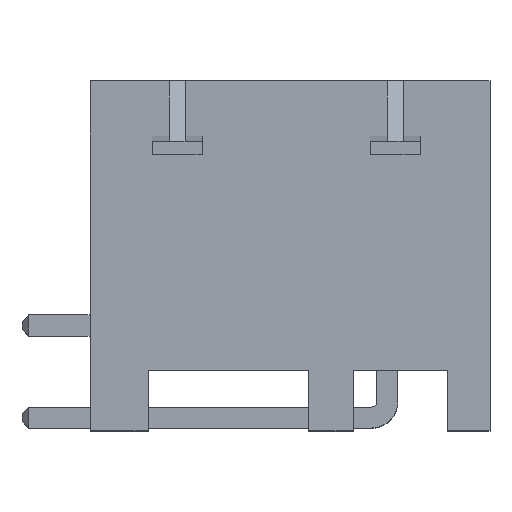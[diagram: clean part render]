
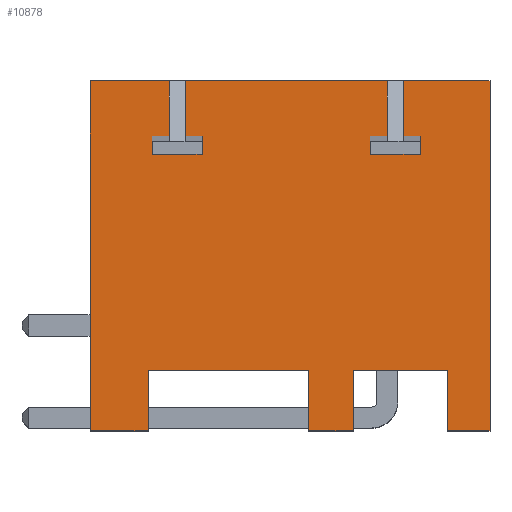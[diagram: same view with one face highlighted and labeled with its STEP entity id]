
A CAD part, top view. The second image highlights one B-rep face of the part: STEP entity #10878.
In plain terms, the highlighted planar face has unit normal (0, 0, 1).
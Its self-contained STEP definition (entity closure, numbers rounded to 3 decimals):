
#369=DIRECTION('',(-1.,0.,0.));
#370=VECTOR('',#369,3.3);
#371=CARTESIAN_POINT('',(15.2,13.3,-11.9));
#372=LINE('',#371,#370);
#377=DIRECTION('',(-1.,0.,0.));
#378=VECTOR('',#377,7.7);
#379=CARTESIAN_POINT('',(11.3,13.3,-11.9));
#380=LINE('',#379,#378);
#385=DIRECTION('',(-1.,0.,0.));
#386=VECTOR('',#385,3.);
#387=CARTESIAN_POINT('',(3.,13.3,-11.9));
#388=LINE('',#387,#386);
#903=DIRECTION('',(0.,1.,0.));
#904=VECTOR('',#903,13.3);
#905=CARTESIAN_POINT('',(15.2,0.,-11.9));
#906=LINE('',#905,#904);
#1161=DIRECTION('',(0.,-1.,0.));
#1162=VECTOR('',#1161,2.3);
#1163=CARTESIAN_POINT('',(8.3,2.3,-11.9));
#1164=LINE('',#1163,#1162);
#1407=DIRECTION('',(0.,-1.,0.));
#1408=VECTOR('',#1407,13.3);
#1409=CARTESIAN_POINT('',(0.,13.3,-11.9));
#1410=LINE('',#1409,#1408);
#1415=DIRECTION('',(0.,1.,0.));
#1416=VECTOR('',#1415,0.5);
#1417=CARTESIAN_POINT('',(12.55,10.7,-11.9));
#1418=LINE('',#1417,#1416);
#1419=DIRECTION('',(-1.,0.,0.));
#1420=VECTOR('',#1419,0.65);
#1421=CARTESIAN_POINT('',(12.55,11.2,-11.9));
#1422=LINE('',#1421,#1420);
#1423=DIRECTION('',(0.,-1.,0.));
#1424=VECTOR('',#1423,2.1);
#1425=CARTESIAN_POINT('',(3.,13.3,-11.9));
#1426=LINE('',#1425,#1424);
#1427=DIRECTION('',(-1.,0.,0.));
#1428=VECTOR('',#1427,0.65);
#1429=CARTESIAN_POINT('',(3.,11.2,-11.9));
#1430=LINE('',#1429,#1428);
#1431=DIRECTION('',(0.,1.,0.));
#1432=VECTOR('',#1431,0.5);
#1433=CARTESIAN_POINT('',(4.25,10.7,-11.9));
#1434=LINE('',#1433,#1432);
#1435=DIRECTION('',(-1.,0.,0.));
#1436=VECTOR('',#1435,0.65);
#1437=CARTESIAN_POINT('',(4.25,11.2,-11.9));
#1438=LINE('',#1437,#1436);
#1439=DIRECTION('',(0.,-1.,0.));
#1440=VECTOR('',#1439,2.1);
#1441=CARTESIAN_POINT('',(11.3,13.3,-11.9));
#1442=LINE('',#1441,#1440);
#1443=DIRECTION('',(-1.,0.,0.));
#1444=VECTOR('',#1443,0.65);
#1445=CARTESIAN_POINT('',(11.3,11.2,-11.9));
#1446=LINE('',#1445,#1444);
#1459=DIRECTION('',(-1.,0.,0.));
#1460=VECTOR('',#1459,1.9);
#1461=CARTESIAN_POINT('',(12.55,10.7,-11.9));
#1462=LINE('',#1461,#1460);
#1463=DIRECTION('',(0.,1.,0.));
#1464=VECTOR('',#1463,0.5);
#1465=CARTESIAN_POINT('',(10.65,10.7,-11.9));
#1466=LINE('',#1465,#1464);
#1511=DIRECTION('',(0.,-1.,0.));
#1512=VECTOR('',#1511,2.1);
#1513=CARTESIAN_POINT('',(11.9,13.3,-11.9));
#1514=LINE('',#1513,#1512);
#1515=DIRECTION('',(1.,0.,0.));
#1516=VECTOR('',#1515,1.6);
#1517=CARTESIAN_POINT('',(13.6,0.,-11.9));
#1518=LINE('',#1517,#1516);
#1541=DIRECTION('',(0.,-1.,0.));
#1542=VECTOR('',#1541,2.3);
#1543=CARTESIAN_POINT('',(13.6,2.3,-11.9));
#1544=LINE('',#1543,#1542);
#1553=DIRECTION('',(1.,0.,0.));
#1554=VECTOR('',#1553,3.6);
#1555=CARTESIAN_POINT('',(10.,2.3,-11.9));
#1556=LINE('',#1555,#1554);
#1561=DIRECTION('',(0.,1.,0.));
#1562=VECTOR('',#1561,2.3);
#1563=CARTESIAN_POINT('',(10.,0.,-11.9));
#1564=LINE('',#1563,#1562);
#1573=DIRECTION('',(1.,0.,0.));
#1574=VECTOR('',#1573,1.7);
#1575=CARTESIAN_POINT('',(8.3,0.,-11.9));
#1576=LINE('',#1575,#1574);
#1965=DIRECTION('',(1.,0.,0.));
#1966=VECTOR('',#1965,6.1);
#1967=CARTESIAN_POINT('',(2.2,2.3,-11.9));
#1968=LINE('',#1967,#1966);
#1981=DIRECTION('',(0.,1.,0.));
#1982=VECTOR('',#1981,2.3);
#1983=CARTESIAN_POINT('',(2.2,0.,-11.9));
#1984=LINE('',#1983,#1982);
#1989=DIRECTION('',(1.,0.,0.));
#1990=VECTOR('',#1989,2.2);
#1991=CARTESIAN_POINT('',(0.,0.,-11.9));
#1992=LINE('',#1991,#1990);
#2035=DIRECTION('',(-1.,0.,0.));
#2036=VECTOR('',#2035,1.9);
#2037=CARTESIAN_POINT('',(4.25,10.7,-11.9));
#2038=LINE('',#2037,#2036);
#2039=DIRECTION('',(0.,1.,0.));
#2040=VECTOR('',#2039,0.5);
#2041=CARTESIAN_POINT('',(2.35,10.7,-11.9));
#2042=LINE('',#2041,#2040);
#2075=DIRECTION('',(0.,-1.,0.));
#2076=VECTOR('',#2075,2.1);
#2077=CARTESIAN_POINT('',(3.6,13.3,-11.9));
#2078=LINE('',#2077,#2076);
#7361=CARTESIAN_POINT('',(15.2,0.,-11.9));
#7362=VERTEX_POINT('',#7361);
#7363=CARTESIAN_POINT('',(15.2,13.3,-11.9));
#7364=VERTEX_POINT('',#7363);
#7488=CARTESIAN_POINT('',(8.3,0.,-11.9));
#7490=VERTEX_POINT('',#7488);
#7491=CARTESIAN_POINT('',(10.,0.,-11.9));
#7492=VERTEX_POINT('',#7491);
#7503=CARTESIAN_POINT('',(8.3,2.3,-11.9));
#7504=VERTEX_POINT('',#7503);
#7595=CARTESIAN_POINT('',(11.9,13.3,-11.9));
#7596=VERTEX_POINT('',#7595);
#7597=CARTESIAN_POINT('',(11.3,13.3,-11.9));
#7598=VERTEX_POINT('',#7597);
#7599=CARTESIAN_POINT('',(3.6,13.3,-11.9));
#7600=VERTEX_POINT('',#7599);
#7601=CARTESIAN_POINT('',(3.,13.3,-11.9));
#7602=VERTEX_POINT('',#7601);
#7603=CARTESIAN_POINT('',(0.,13.3,-11.9));
#7604=VERTEX_POINT('',#7603);
#7963=CARTESIAN_POINT('',(12.55,10.7,-11.9));
#7964=CARTESIAN_POINT('',(12.55,11.2,-11.9));
#7965=VERTEX_POINT('',#7963);
#7966=VERTEX_POINT('',#7964);
#7967=CARTESIAN_POINT('',(11.9,11.2,-11.9));
#7968=VERTEX_POINT('',#7967);
#7969=CARTESIAN_POINT('',(13.6,0.,-11.9));
#7970=VERTEX_POINT('',#7969);
#7971=CARTESIAN_POINT('',(13.6,2.3,-11.9));
#7972=VERTEX_POINT('',#7971);
#7973=CARTESIAN_POINT('',(10.,2.3,-11.9));
#7974=VERTEX_POINT('',#7973);
#7975=CARTESIAN_POINT('',(2.2,2.3,-11.9));
#7976=VERTEX_POINT('',#7975);
#7977=CARTESIAN_POINT('',(2.2,0.,-11.9));
#7978=VERTEX_POINT('',#7977);
#7979=CARTESIAN_POINT('',(0.,0.,-11.9));
#7980=VERTEX_POINT('',#7979);
#7981=CARTESIAN_POINT('',(3.,11.2,-11.9));
#7982=VERTEX_POINT('',#7981);
#7983=CARTESIAN_POINT('',(2.35,11.2,-11.9));
#7984=VERTEX_POINT('',#7983);
#7985=CARTESIAN_POINT('',(2.35,10.7,-11.9));
#7986=VERTEX_POINT('',#7985);
#7987=CARTESIAN_POINT('',(4.25,10.7,-11.9));
#7988=VERTEX_POINT('',#7987);
#7989=CARTESIAN_POINT('',(4.25,11.2,-11.9));
#7990=VERTEX_POINT('',#7989);
#7991=CARTESIAN_POINT('',(3.6,11.2,-11.9));
#7992=VERTEX_POINT('',#7991);
#7993=CARTESIAN_POINT('',(11.3,11.2,-11.9));
#7994=VERTEX_POINT('',#7993);
#7995=CARTESIAN_POINT('',(10.65,11.2,-11.9));
#7996=VERTEX_POINT('',#7995);
#7997=CARTESIAN_POINT('',(10.65,10.7,-11.9));
#7998=VERTEX_POINT('',#7997);
#10821=CARTESIAN_POINT('',(0.,0.,-11.9));
#10822=DIRECTION('',(0.,0.,1.));
#10823=DIRECTION('',(0.,-1.,0.));
#10824=AXIS2_PLACEMENT_3D('',#10821,#10822,#10823);
#10825=PLANE('',#10824);
#10827=ORIENTED_EDGE('',*,*,#10826,.T.);
#10829=ORIENTED_EDGE('',*,*,#10828,.T.);
#10831=ORIENTED_EDGE('',*,*,#10830,.F.);
#10832=ORIENTED_EDGE('',*,*,#9794,.F.);
#10833=ORIENTED_EDGE('',*,*,#10223,.F.);
#10835=ORIENTED_EDGE('',*,*,#10834,.F.);
#10837=ORIENTED_EDGE('',*,*,#10836,.F.);
#10839=ORIENTED_EDGE('',*,*,#10838,.F.);
#10841=ORIENTED_EDGE('',*,*,#10840,.F.);
#10843=ORIENTED_EDGE('',*,*,#10842,.F.);
#10844=ORIENTED_EDGE('',*,*,#10472,.F.);
#10846=ORIENTED_EDGE('',*,*,#10845,.F.);
#10848=ORIENTED_EDGE('',*,*,#10847,.F.);
#10850=ORIENTED_EDGE('',*,*,#10849,.F.);
#10851=ORIENTED_EDGE('',*,*,#10811,.F.);
#10852=ORIENTED_EDGE('',*,*,#9802,.F.);
#10854=ORIENTED_EDGE('',*,*,#10853,.T.);
#10856=ORIENTED_EDGE('',*,*,#10855,.T.);
#10858=ORIENTED_EDGE('',*,*,#10857,.F.);
#10860=ORIENTED_EDGE('',*,*,#10859,.F.);
#10862=ORIENTED_EDGE('',*,*,#10861,.T.);
#10864=ORIENTED_EDGE('',*,*,#10863,.T.);
#10866=ORIENTED_EDGE('',*,*,#10865,.F.);
#10867=ORIENTED_EDGE('',*,*,#9798,.F.);
#10869=ORIENTED_EDGE('',*,*,#10868,.T.);
#10871=ORIENTED_EDGE('',*,*,#10870,.T.);
#10873=ORIENTED_EDGE('',*,*,#10872,.F.);
#10875=ORIENTED_EDGE('',*,*,#10874,.F.);
#10876=EDGE_LOOP('',(#10827,#10829,#10831,#10832,#10833,#10835,#10837,#10839,
#10841,#10843,#10844,#10846,#10848,#10850,#10851,#10852,#10854,#10856,#10858,
#10860,#10862,#10864,#10866,#10867,#10869,#10871,#10873,#10875));
#10877=FACE_OUTER_BOUND('',#10876,.F.);
#10878=ADVANCED_FACE('',(#10877),#10825,.T.);
#9794=EDGE_CURVE('',#7364,#7596,#372,.T.);
#9798=EDGE_CURVE('',#7598,#7600,#380,.T.);
#9802=EDGE_CURVE('',#7602,#7604,#388,.T.);
#10223=EDGE_CURVE('',#7362,#7364,#906,.T.);
#10472=EDGE_CURVE('',#7504,#7490,#1164,.T.);
#10811=EDGE_CURVE('',#7604,#7980,#1410,.T.);
#10826=EDGE_CURVE('',#7965,#7966,#1418,.T.);
#10828=EDGE_CURVE('',#7966,#7968,#1422,.T.);
#10830=EDGE_CURVE('',#7596,#7968,#1514,.T.);
#10834=EDGE_CURVE('',#7970,#7362,#1518,.T.);
#10836=EDGE_CURVE('',#7972,#7970,#1544,.T.);
#10838=EDGE_CURVE('',#7974,#7972,#1556,.T.);
#10840=EDGE_CURVE('',#7492,#7974,#1564,.T.);
#10842=EDGE_CURVE('',#7490,#7492,#1576,.T.);
#10845=EDGE_CURVE('',#7976,#7504,#1968,.T.);
#10847=EDGE_CURVE('',#7978,#7976,#1984,.T.);
#10849=EDGE_CURVE('',#7980,#7978,#1992,.T.);
#10853=EDGE_CURVE('',#7602,#7982,#1426,.T.);
#10855=EDGE_CURVE('',#7982,#7984,#1430,.T.);
#10857=EDGE_CURVE('',#7986,#7984,#2042,.T.);
#10859=EDGE_CURVE('',#7988,#7986,#2038,.T.);
#10861=EDGE_CURVE('',#7988,#7990,#1434,.T.);
#10863=EDGE_CURVE('',#7990,#7992,#1438,.T.);
#10865=EDGE_CURVE('',#7600,#7992,#2078,.T.);
#10868=EDGE_CURVE('',#7598,#7994,#1442,.T.);
#10870=EDGE_CURVE('',#7994,#7996,#1446,.T.);
#10872=EDGE_CURVE('',#7998,#7996,#1466,.T.);
#10874=EDGE_CURVE('',#7965,#7998,#1462,.T.);
